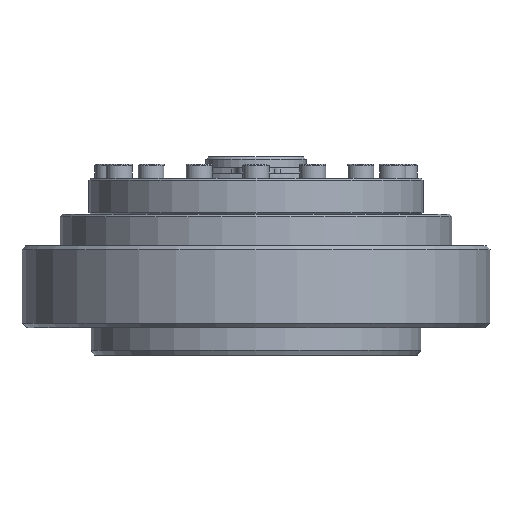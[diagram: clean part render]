
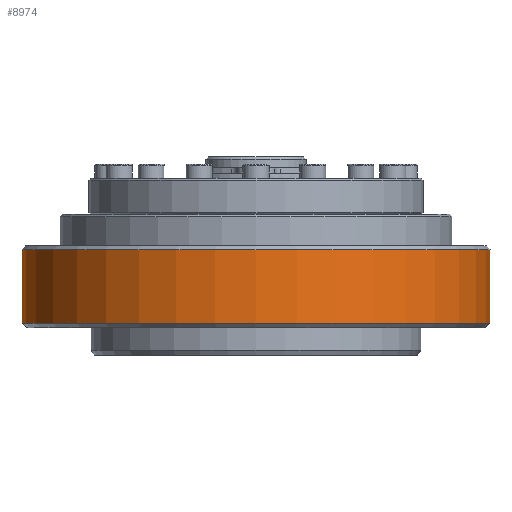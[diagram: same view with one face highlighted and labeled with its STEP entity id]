
A CAD part, front view. The second image highlights one B-rep face of the part: STEP entity #8974.
In plain terms, the highlighted cylindrical face has radius 49 mm (diameter 98 mm), a full revolution.
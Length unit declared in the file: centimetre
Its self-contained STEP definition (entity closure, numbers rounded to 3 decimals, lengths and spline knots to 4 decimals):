
#1276=CYLINDRICAL_SURFACE('',#10050,4.9);
#1819=FACE_BOUND('',#3217,.T.);
#2382=FACE_OUTER_BOUND('',#3216,.T.);
#3216=EDGE_LOOP('',(#7447));
#3217=EDGE_LOOP('',(#7448));
#3964=CIRCLE('',#10045,4.9);
#3967=CIRCLE('',#10049,4.9);
#4641=VERTEX_POINT('',#14918);
#4644=VERTEX_POINT('',#14925);
#5646=EDGE_CURVE('',#4641,#4641,#3964,.T.);
#5649=EDGE_CURVE('',#4644,#4644,#3967,.T.);
#7447=ORIENTED_EDGE('',*,*,#5649,.T.);
#7448=ORIENTED_EDGE('',*,*,#5646,.T.);
#8974=ADVANCED_FACE('',(#2382,#1819),#1276,.T.);
#10045=AXIS2_PLACEMENT_3D('',#14919,#12341,#12342);
#10049=AXIS2_PLACEMENT_3D('',#14926,#12349,#12350);
#10050=AXIS2_PLACEMENT_3D('',#14927,#12351,#12352);
#12341=DIRECTION('center_axis',(0.,0.,-1.));
#12342=DIRECTION('ref_axis',(1.,0.,0.));
#12349=DIRECTION('center_axis',(0.,0.,1.));
#12350=DIRECTION('ref_axis',(-1.,0.,0.));
#12351=DIRECTION('center_axis',(0.,0.,-1.));
#12352=DIRECTION('ref_axis',(1.,0.,0.));
#14918=CARTESIAN_POINT('',(-4.9,0.,2.21));
#14919=CARTESIAN_POINT('Origin',(0.,0.,2.21));
#14925=CARTESIAN_POINT('',(-4.9,0.,0.67));
#14926=CARTESIAN_POINT('Origin',(0.,0.,0.67));
#14927=CARTESIAN_POINT('Origin',(0.,0.,1.355));
